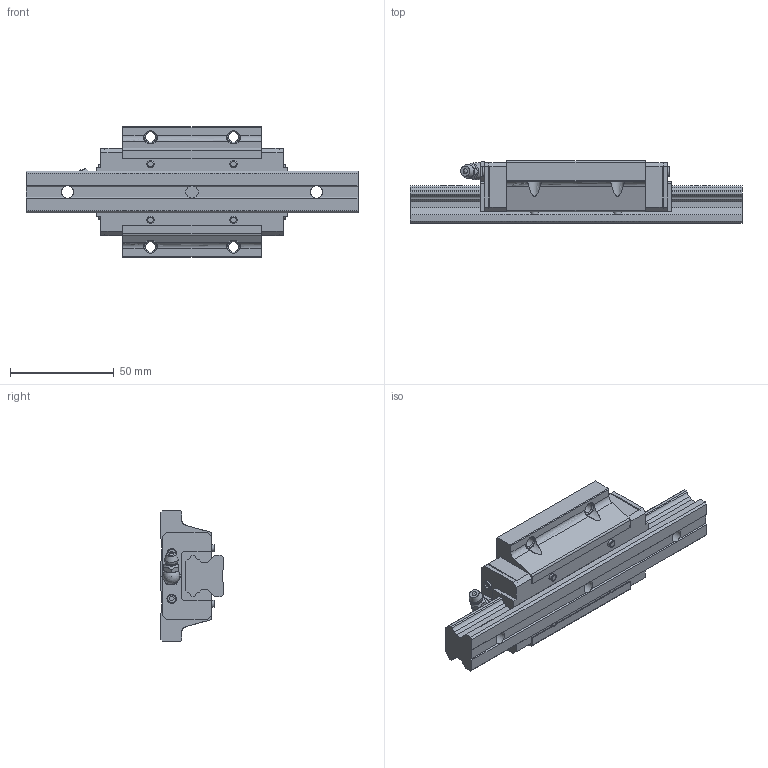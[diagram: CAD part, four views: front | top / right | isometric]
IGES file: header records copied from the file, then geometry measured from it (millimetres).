
Start section: Data from Parasolid IGES Translator 26.0.171, Copyright(c) 2006 Siemens PLM Software. All Rights Reserved.
Global section: file name: HSR20M1LA1SS-160L_G20_0_B-M6F_34_0_0_0_1.igs; native system: By Siemens PLM Incorporated; preprocessor: XPlus GENERIC/IGES 26.0.171; author: Noname; organization: Noname; date: 20240523.061208; units: millimetre
Bounding box: 160 x 30 x 63 mm (x, y, z)
Surface area: 34718.6 mm2 (no closed solid volume)
Topology: 0 solids, 0 shells, 271 faces, 1458 edges, 1394 vertices
Faces by surface type: extrusion 192, revolution 79
